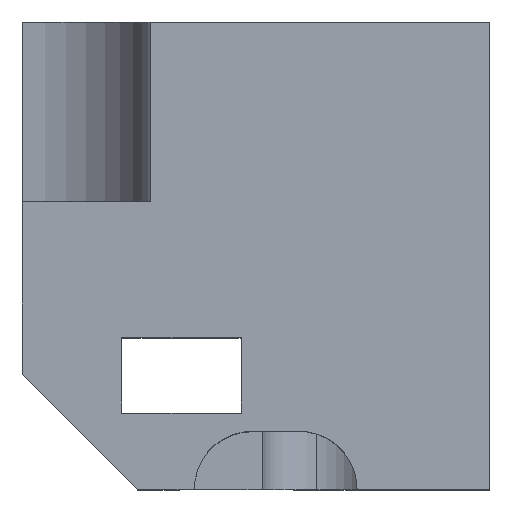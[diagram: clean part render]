
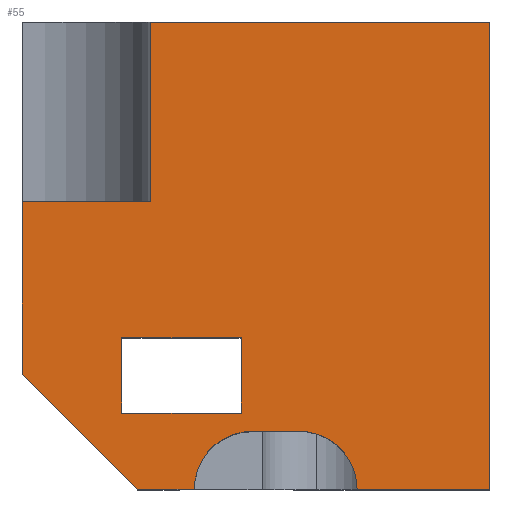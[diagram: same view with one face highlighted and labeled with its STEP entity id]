
A CAD part, top view. The second image highlights one B-rep face of the part: STEP entity #55.
In plain terms, the highlighted planar face has unit normal (0, 0, 1).
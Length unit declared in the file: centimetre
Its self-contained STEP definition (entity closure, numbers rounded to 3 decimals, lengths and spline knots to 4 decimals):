
#47 = CARTESIAN_POINT ( 'NONE',  ( 367.8339, 0., 1000. ) ) ;
#49 = VECTOR ( 'NONE', #922, 100. ) ;
#55 = ADVANCED_FACE ( 'NONE', ( #301, #744 ), #911, .T. ) ;
#66 = VERTEX_POINT ( 'NONE', #183 ) ;
#68 = EDGE_CURVE ( 'NONE', #261, #566, #283, .T. ) ;
#84 = VERTEX_POINT ( 'NONE', #541 ) ;
#85 = CARTESIAN_POINT ( 'NONE',  ( 0., 615.282, 1000. ) ) ;
#95 = DIRECTION ( 'NONE',  ( 0., 0., 1. ) ) ;
#103 = VERTEX_POINT ( 'NONE', #564 ) ;
#106 = CARTESIAN_POINT ( 'NONE',  ( 273.384, 615.282, 1000. ) ) ;
#111 = CARTESIAN_POINT ( 'NONE',  ( 1000., 1000., 1000. ) ) ;
#115 = EDGE_CURVE ( 'NONE', #137, #431, #1002, .T. ) ;
#116 = CARTESIAN_POINT ( 'NONE',  ( 0., 0., 1000. ) ) ;
#119 = LINE ( 'NONE', #209, #1142 ) ;
#124 = LINE ( 'NONE', #409, #1072 ) ;
#128 = CARTESIAN_POINT ( 'NONE',  ( 468.4497, 324.6575, 1000. ) ) ;
#137 = VERTEX_POINT ( 'NONE', #452 ) ;
#171 = AXIS2_PLACEMENT_3D ( 'NONE', #548, #287, #1024 ) ;
#182 = VECTOR ( 'NONE', #659, 100. ) ;
#183 = CARTESIAN_POINT ( 'NONE',  ( 491.8112, 123.9773, 1000. ) ) ;
#192 = LINE ( 'NONE', #111, #371 ) ;
#205 = CARTESIAN_POINT ( 'NONE',  ( 273.384, 615.282, 1000. ) ) ;
#206 = VECTOR ( 'NONE', #984, 100. ) ;
#209 = CARTESIAN_POINT ( 'NONE',  ( 468.4497, 162.902, 1000. ) ) ;
#217 = EDGE_LOOP ( 'NONE', ( #1049, #583, #249, #898, #1172, #891, #644, #955, #983, #585, #337 ) ) ;
#238 = EDGE_CURVE ( 'NONE', #103, #438, #124, .T. ) ;
#241 = ORIENTED_EDGE ( 'NONE', *, *, #238, .F. ) ;
#249 = ORIENTED_EDGE ( 'NONE', *, *, #376, .T. ) ;
#261 = VERTEX_POINT ( 'NONE', #940 ) ;
#267 = CIRCLE ( 'NONE', #413, 123.9773 ) ;
#281 = EDGE_CURVE ( 'NONE', #350, #704, #749, .T. ) ;
#283 = LINE ( 'NONE', #116, #49 ) ;
#287 = DIRECTION ( 'NONE',  ( 0., 0., 1. ) ) ;
#298 = AXIS2_PLACEMENT_3D ( 'NONE', #735, #95, #996 ) ;
#301 = FACE_OUTER_BOUND ( 'NONE', #217, .T. ) ;
#311 = EDGE_CURVE ( 'NONE', #684, #704, #755, .T. ) ;
#337 = ORIENTED_EDGE ( 'NONE', *, *, #311, .T. ) ;
#350 = VERTEX_POINT ( 'NONE', #205 ) ;
#371 = VECTOR ( 'NONE', #473, 100. ) ;
#376 = EDGE_CURVE ( 'NONE', #720, #599, #841, .T. ) ;
#383 = CARTESIAN_POINT ( 'NONE',  ( 0., 1000., 1000. ) ) ;
#409 = CARTESIAN_POINT ( 'NONE',  ( 212.7789, 162.902, 1000. ) ) ;
#413 = AXIS2_PLACEMENT_3D ( 'NONE', #896, #1180, #443 ) ;
#431 = VERTEX_POINT ( 'NONE', #492 ) ;
#432 = LINE ( 'NONE', #1164, #206 ) ;
#438 = VERTEX_POINT ( 'NONE', #1104 ) ;
#443 = DIRECTION ( 'NONE',  ( 1., 0., 0. ) ) ;
#446 = VECTOR ( 'NONE', #649, 100. ) ;
#450 = VERTEX_POINT ( 'NONE', #586 ) ;
#452 = CARTESIAN_POINT ( 'NONE',  ( 716.4031, 0., 1000. ) ) ;
#473 = DIRECTION ( 'NONE',  ( 0., 1., 0. ) ) ;
#492 = CARTESIAN_POINT ( 'NONE',  ( 1000., 0., 1000. ) ) ;
#537 = CARTESIAN_POINT ( 'NONE',  ( 212.7789, 324.6575, 1000. ) ) ;
#541 = CARTESIAN_POINT ( 'NONE',  ( 592.4258, 123.9773, 1000. ) ) ;
#548 = CARTESIAN_POINT ( 'NONE',  ( 491.8112, 0., 1000. ) ) ;
#555 = VECTOR ( 'NONE', #810, 100. ) ;
#564 = CARTESIAN_POINT ( 'NONE',  ( 212.7789, 162.902, 1000. ) ) ;
#566 = VERTEX_POINT ( 'NONE', #47 ) ;
#567 = VECTOR ( 'NONE', #797, 100. ) ;
#573 = DIRECTION ( 'NONE',  ( 0., 1., 0. ) ) ;
#576 = DIRECTION ( 'NONE',  ( 1., 0., 0. ) ) ;
#583 = ORIENTED_EDGE ( 'NONE', *, *, #1179, .T. ) ;
#585 = ORIENTED_EDGE ( 'NONE', *, *, #821, .T. ) ;
#586 = CARTESIAN_POINT ( 'NONE',  ( 212.7789, 324.6575, 1000. ) ) ;
#599 = VERTEX_POINT ( 'NONE', #815 ) ;
#621 = CARTESIAN_POINT ( 'NONE',  ( 592.4258, 123.9773, 1000. ) ) ;
#625 = EDGE_CURVE ( 'NONE', #450, #103, #432, .T. ) ;
#639 = LINE ( 'NONE', #621, #977 ) ;
#644 = ORIENTED_EDGE ( 'NONE', *, *, #1123, .F. ) ;
#645 = CARTESIAN_POINT ( 'NONE',  ( 273.384, 1000., 1000. ) ) ;
#649 = DIRECTION ( 'NONE',  ( 1., 0., 0. ) ) ;
#659 = DIRECTION ( 'NONE',  ( 0., -1., 0. ) ) ;
#684 = VERTEX_POINT ( 'NONE', #799 ) ;
#687 = EDGE_CURVE ( 'NONE', #758, #450, #1079, .T. ) ;
#690 = CIRCLE ( 'NONE', #171, 123.9773 ) ;
#704 = VERTEX_POINT ( 'NONE', #645 ) ;
#720 = VERTEX_POINT ( 'NONE', #1182 ) ;
#735 = CARTESIAN_POINT ( 'NONE',  ( 0., 0., 1000. ) ) ;
#737 = CARTESIAN_POINT ( 'NONE',  ( 123.0785, 123.0785, 1000. ) ) ;
#744 = FACE_BOUND ( 'NONE', #1148, .T. ) ;
#749 = LINE ( 'NONE', #106, #1033 ) ;
#755 = LINE ( 'NONE', #835, #1149 ) ;
#758 = VERTEX_POINT ( 'NONE', #128 ) ;
#797 = DIRECTION ( 'NONE',  ( -1., 0., 0. ) ) ;
#799 = CARTESIAN_POINT ( 'NONE',  ( 1000., 1000., 1000. ) ) ;
#802 = LINE ( 'NONE', #85, #567 ) ;
#808 = DIRECTION ( 'NONE',  ( -1., 0., 0. ) ) ;
#810 = DIRECTION ( 'NONE',  ( -1., 0., 0. ) ) ;
#815 = CARTESIAN_POINT ( 'NONE',  ( 0., 246.157, 1000. ) ) ;
#821 = EDGE_CURVE ( 'NONE', #431, #684, #192, .T. ) ;
#831 = CARTESIAN_POINT ( 'NONE',  ( 0., 0., 1000. ) ) ;
#835 = CARTESIAN_POINT ( 'NONE',  ( 0., 1000., 1000. ) ) ;
#836 = EDGE_CURVE ( 'NONE', #66, #566, #690, .T. ) ;
#840 = DIRECTION ( 'NONE',  ( 0.707, -0.707, 0. ) ) ;
#841 = LINE ( 'NONE', #383, #182 ) ;
#851 = EDGE_CURVE ( 'NONE', #438, #758, #119, .T. ) ;
#881 = EDGE_CURVE ( 'NONE', #599, #261, #932, .T. ) ;
#891 = ORIENTED_EDGE ( 'NONE', *, *, #836, .F. ) ;
#896 = CARTESIAN_POINT ( 'NONE',  ( 592.4258, 0., 1000. ) ) ;
#898 = ORIENTED_EDGE ( 'NONE', *, *, #881, .T. ) ;
#911 = PLANE ( 'NONE',  #298 ) ;
#922 = DIRECTION ( 'NONE',  ( 1., 0., 0. ) ) ;
#932 = LINE ( 'NONE', #737, #1029 ) ;
#940 = CARTESIAN_POINT ( 'NONE',  ( 246.157, 0., 1000. ) ) ;
#955 = ORIENTED_EDGE ( 'NONE', *, *, #1169, .F. ) ;
#966 = ORIENTED_EDGE ( 'NONE', *, *, #625, .F. ) ;
#977 = VECTOR ( 'NONE', #808, 100. ) ;
#983 = ORIENTED_EDGE ( 'NONE', *, *, #115, .T. ) ;
#984 = DIRECTION ( 'NONE',  ( 0., -1., 0. ) ) ;
#996 = DIRECTION ( 'NONE',  ( 1., 0., 0. ) ) ;
#1002 = LINE ( 'NONE', #831, #446 ) ;
#1012 = DIRECTION ( 'NONE',  ( 0., 1., 0. ) ) ;
#1024 = DIRECTION ( 'NONE',  ( 1., 0., 0. ) ) ;
#1029 = VECTOR ( 'NONE', #840, 100. ) ;
#1033 = VECTOR ( 'NONE', #1012, 100. ) ;
#1049 = ORIENTED_EDGE ( 'NONE', *, *, #281, .F. ) ;
#1072 = VECTOR ( 'NONE', #576, 100. ) ;
#1079 = LINE ( 'NONE', #537, #555 ) ;
#1102 = ORIENTED_EDGE ( 'NONE', *, *, #851, .F. ) ;
#1104 = CARTESIAN_POINT ( 'NONE',  ( 468.4497, 162.902, 1000. ) ) ;
#1111 = DIRECTION ( 'NONE',  ( -1., 0., 0. ) ) ;
#1123 = EDGE_CURVE ( 'NONE', #84, #66, #639, .T. ) ;
#1142 = VECTOR ( 'NONE', #573, 100. ) ;
#1148 = EDGE_LOOP ( 'NONE', ( #966, #1154, #1102, #241 ) ) ;
#1149 = VECTOR ( 'NONE', #1111, 100. ) ;
#1154 = ORIENTED_EDGE ( 'NONE', *, *, #687, .F. ) ;
#1164 = CARTESIAN_POINT ( 'NONE',  ( 212.7789, 162.902, 1000. ) ) ;
#1169 = EDGE_CURVE ( 'NONE', #137, #84, #267, .T. ) ;
#1172 = ORIENTED_EDGE ( 'NONE', *, *, #68, .T. ) ;
#1179 = EDGE_CURVE ( 'NONE', #350, #720, #802, .T. ) ;
#1180 = DIRECTION ( 'NONE',  ( 0., 0., 1. ) ) ;
#1182 = CARTESIAN_POINT ( 'NONE',  ( 0., 615.282, 1000. ) ) ;
